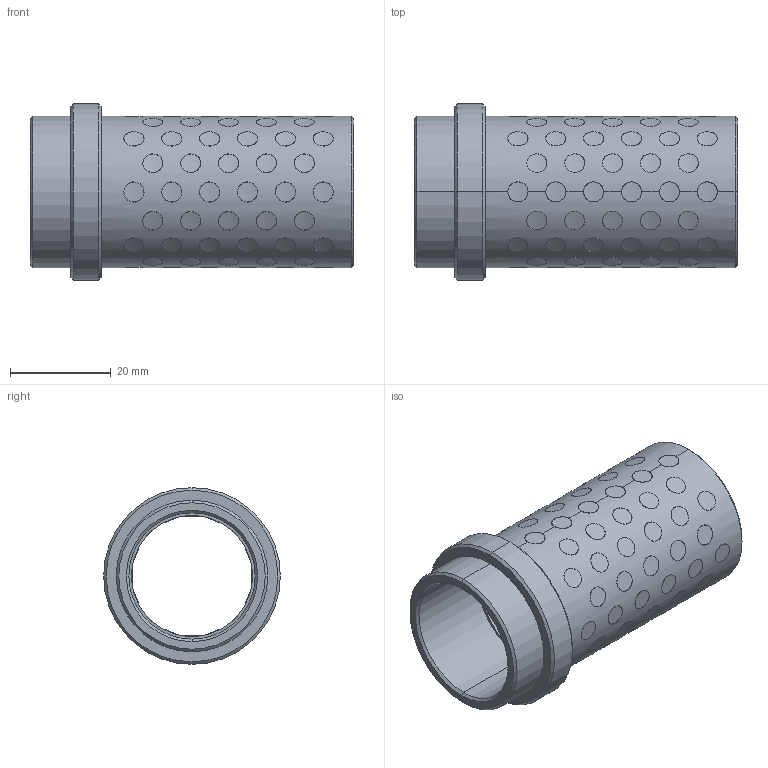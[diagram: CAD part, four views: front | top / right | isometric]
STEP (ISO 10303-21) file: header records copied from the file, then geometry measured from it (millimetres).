
FILE_DESCRIPTION((''),'2;1');
FILE_NAME('G31224056','2017-12-30T',('MANU'),(''),'PRO/ENGINEER BY PARAMETRIC TECHNOLOGY CORPORATION, 2012130','PRO/ENGINEER BY PARAMETRIC TECHNOLOGY CORPORATION, 2012130','');
FILE_SCHEMA(('CONFIG_CONTROL_DESIGN'));
Length unit declared in the file: millimetre
Products named in the file (1): G31224056
Bounding box: 64 x 35 x 35 mm (x, y, z)
Volume: 17010.4 mm3; surface area: 18434.1 mm2
Topology: 89 solids, 89 shells, 555 faces, 1182 edges, 784 vertices
Faces by surface type: cylinder 538, cone 12, plane 5
Entity records: 25918 total; most frequent: CARTESIAN_POINT 15093, ORIENTED_EDGE 2364, DIRECTION 1572, EDGE_CURVE 1182, VERTEX_POINT 784, B_SPLINE_CURVE_WITH_KNOTS 752, EDGE_LOOP 712, AXIS2_PLACEMENT_3D 587
